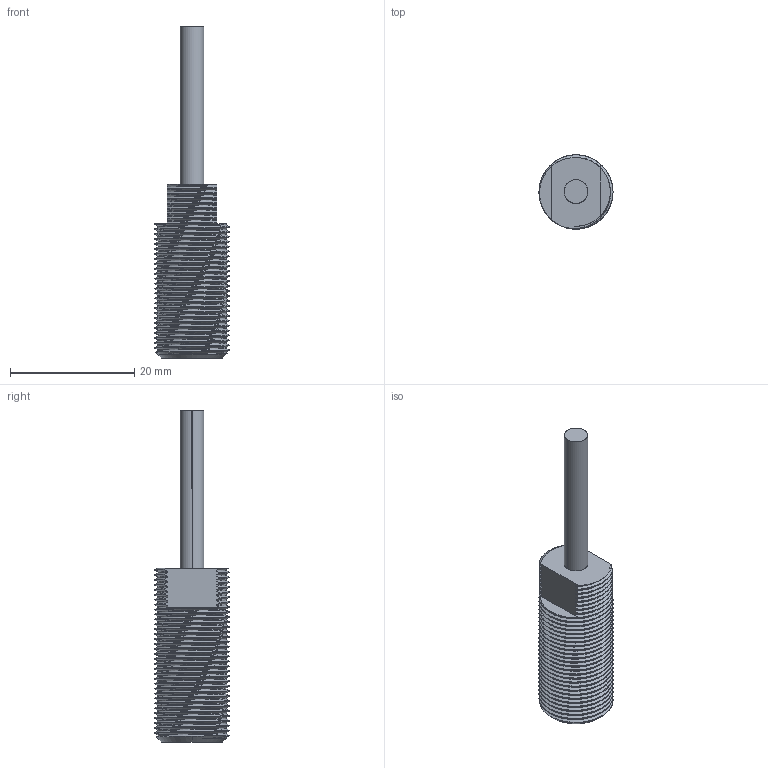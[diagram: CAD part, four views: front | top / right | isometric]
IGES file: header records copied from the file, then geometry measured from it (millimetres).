
Start section: SolidWorks IGES file using analytic representation for surfaces
Global section: file name: C:\Documents and Settings\Administrator\My Documents\EDI\3D\finished sensors\2S.IGS; native system: SolidWorks 2008; preprocessor: SolidWorks 2008; author: Administrator; date: 100304.193208; units: inch
Bounding box: 11.91 x 11.91 x 53.34 mm (x, y, z)
Surface area: 2019.6 mm2 (no closed solid volume)
Topology: 0 solids, 0 shells, 131 faces, 1790 edges, 1790 vertices
Faces by surface type: revolution 73, bspline 58
